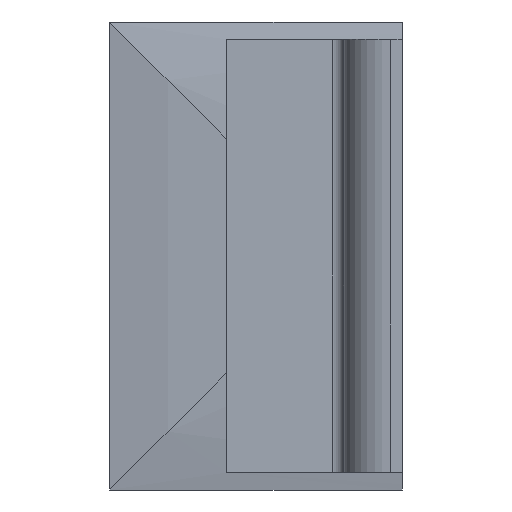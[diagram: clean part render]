
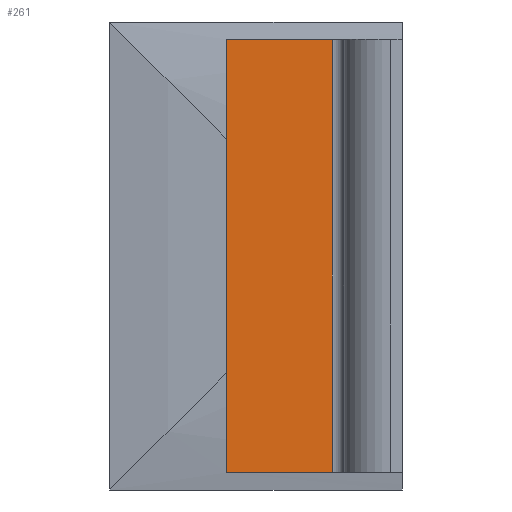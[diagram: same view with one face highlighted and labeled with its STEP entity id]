
A CAD part, top view. The second image highlights one B-rep face of the part: STEP entity #261.
In plain terms, the highlighted planar face has unit normal (0, 0, 1).
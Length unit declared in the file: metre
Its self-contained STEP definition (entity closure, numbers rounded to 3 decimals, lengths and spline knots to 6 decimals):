
#20=PLANE('',#288);
#99=ORIENTED_EDGE('',*,*,#136,.T.);
#100=ORIENTED_EDGE('',*,*,#129,.F.);
#101=ORIENTED_EDGE('',*,*,#138,.F.);
#102=ORIENTED_EDGE('',*,*,#124,.F.);
#124=EDGE_CURVE('',#155,#156,#176,.T.);
#129=EDGE_CURVE('',#158,#159,#181,.T.);
#136=EDGE_CURVE('',#155,#159,#186,.T.);
#138=EDGE_CURVE('',#156,#158,#188,.T.);
#155=VERTEX_POINT('',#411);
#156=VERTEX_POINT('',#413);
#158=VERTEX_POINT('',#421);
#159=VERTEX_POINT('',#423);
#176=LINE('',#412,#202);
#181=LINE('',#422,#207);
#186=LINE('',#436,#212);
#188=LINE('',#440,#214);
#202=VECTOR('',#328,1.);
#207=VECTOR('',#337,1.);
#212=VECTOR('',#352,1.);
#214=VECTOR('',#358,1.);
#228=EDGE_LOOP('',(#99,#100,#101,#102));
#242=FACE_BOUND('',#228,.T.);
#261=ADVANCED_FACE('',(#242),#20,.T.);
#288=AXIS2_PLACEMENT_3D('',#441,#359,#360);
#328=DIRECTION('',(-1.,0.,0.));
#337=DIRECTION('',(1.,0.,0.));
#352=DIRECTION('',(0.,1.,0.));
#358=DIRECTION('',(0.,1.,0.));
#359=DIRECTION('',(0.,0.,1.));
#360=DIRECTION('',(-0.707,-0.707,0.));
#411=CARTESIAN_POINT('',(0.001748,-0.00445,-0.0282));
#412=CARTESIAN_POINT('',(0.001848,-0.00445,-0.0282));
#413=CARTESIAN_POINT('',(0.000848,-0.00445,-0.0282));
#421=CARTESIAN_POINT('',(0.000848,-0.00075,-0.0282));
#422=CARTESIAN_POINT('',(0.000848,-0.00075,-0.0282));
#423=CARTESIAN_POINT('',(0.001748,-0.00075,-0.0282));
#436=CARTESIAN_POINT('',(0.001748,-0.00445,-0.0282));
#440=CARTESIAN_POINT('',(0.000848,-0.00275,-0.0282));
#441=CARTESIAN_POINT('',(0.005473,0.000188,-0.0282));
